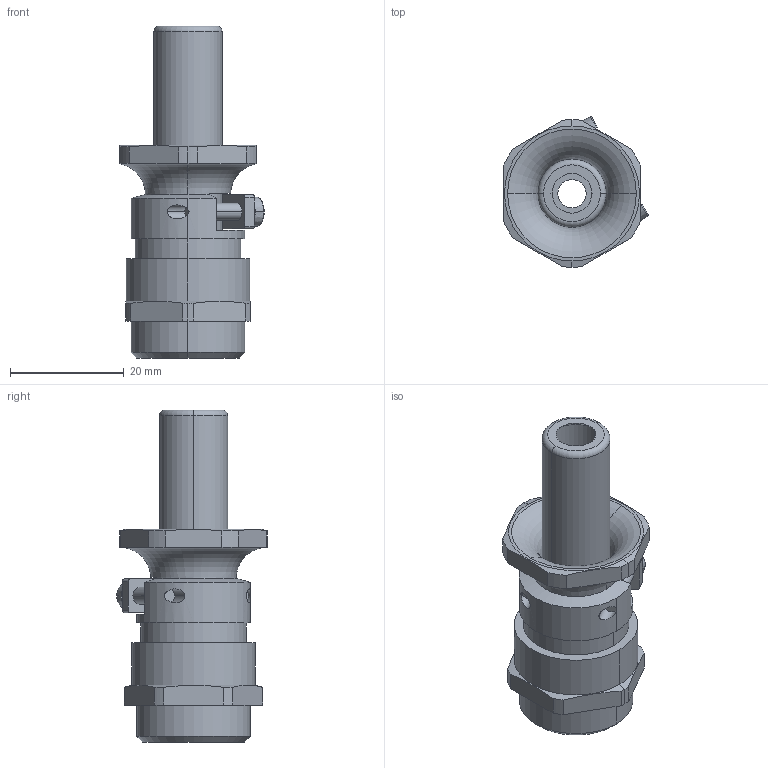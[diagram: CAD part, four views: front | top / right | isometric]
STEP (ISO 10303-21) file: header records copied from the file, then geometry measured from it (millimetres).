
FILE_DESCRIPTION (( 'STEP AP203' ), '1' );
FILE_NAME ('23.611M20K.STEP', '2006-08-02T05:54:16', ( ' ' ), ( '' ), 'SwSTEP 2.0', 'SolidWorks 2005278', '' );
FILE_SCHEMA (( 'CONFIG_CONTROL_DESIGN' ));
Length unit declared in the file: millimetre
Products named in the file (1): 23.611M20K
Bounding box: 25.42 x 26.54 x 58.5 mm (x, y, z)
Volume: 9795.6 mm3; surface area: 7257 mm2
Topology: 1 solids, 1 shells, 159 faces, 419 edges, 271 vertices
Faces by surface type: plane 86, cylinder 46, cone 15, torus 12
Entity records: 5201 total; most frequent: CARTESIAN_POINT 1124, DIRECTION 844, ORIENTED_EDGE 838, EDGE_CURVE 419, AXIS2_PLACEMENT_3D 307, VERTEX_POINT 271, VECTOR 230, LINE 230
